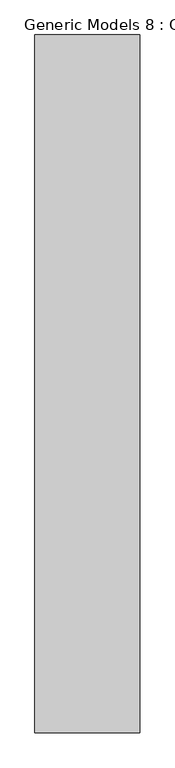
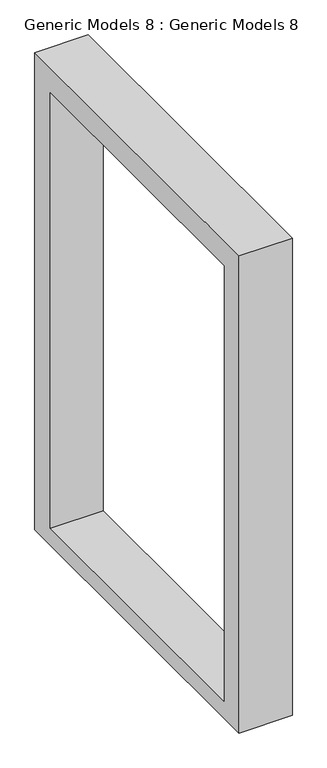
"""IFC4 building model written with IfcOpenShell, lengths in millimetres: proxy geometry, Generic Models 8 : Generic Models 8."""

from ifc_helpers import new_model, si_unit, frame, origin, place, context, project, spatial, polyline, outline, extrude, source, transform, mapped, element, save


def generic_models_8_generic_models_8_d43dc7e2(model_context):
    return source(origin(), model_context, "Body", "SweptSolid", [
        extrude(outline(polyline([(8646.7661592, 2850.0), (8646.7661592, 0.0), (6646.7661592, 0.0), (6646.7661592, 2850.0), (8646.7661592, 2850.0)]), holes=[polyline([(8496.7661592, 2700.0), (6796.7661592, 2700.0), (6796.7661592, 100.0), (8496.7661592, 100.0), (8496.7661592, 2700.0)])]), frame((12700.0001123, 0.0, 0.0), z_axis=(1.0, 0.0, 0.0), x_axis=(0.0, 1.0, 0.0)), (0.0, 0.0, 1.0), 300.0),
    ])


if __name__ == "__main__":
    model = new_model("IFC4")
    model_context = context("Model", 3, world=origin())
    ifc_project = project(units=[si_unit("LENGTHUNIT", "METRE", prefix="MILLI")], contexts=[model_context])
    site = spatial("IfcSite", under=ifc_project)
    building = spatial("IfcBuilding", under=site)
    placement = place(None, origin())
    generic_models_8_generic_models_8_shape = generic_models_8_generic_models_8_d43dc7e2(model_context)
    element("IfcBuildingElementProxy", 1, Name="Generic Models 8 : Generic Models 8", ObjectType="Generic Models 8 : Generic Models 8", at=placement, inside=building, context=model_context, shape_type="MappedRepresentation", body=[
        mapped(generic_models_8_generic_models_8_shape, transform((0.0, 0.0, 0.0), x_axis=(1.0, 0.0, 0.0), y_axis=(0.0, 1.0, 0.0), z_axis=(0.0, 0.0, 1.0))),
    ])
    save(model, "model.ifc")
